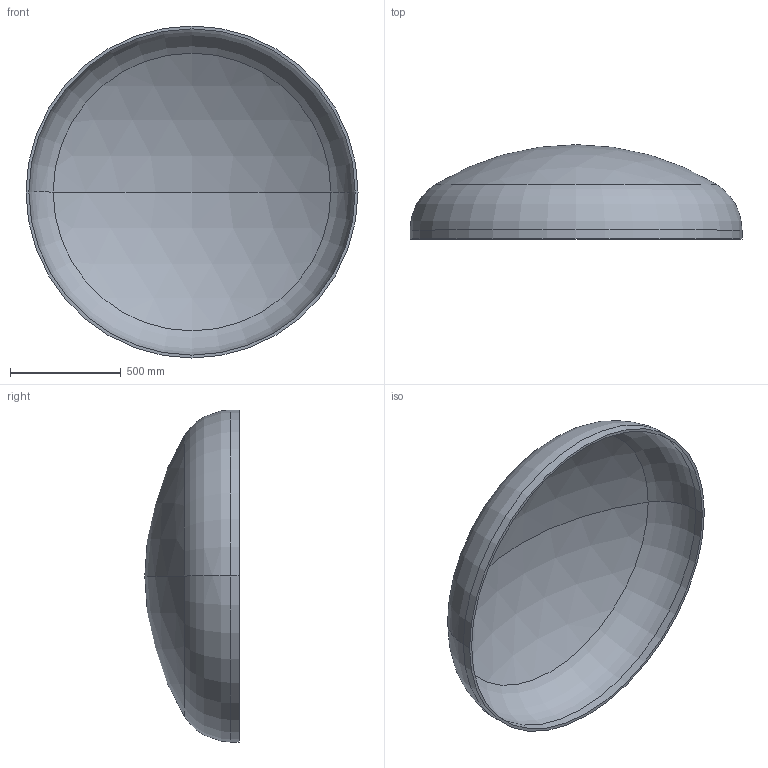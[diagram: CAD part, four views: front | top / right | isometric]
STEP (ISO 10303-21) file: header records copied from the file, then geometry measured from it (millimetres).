
FILE_DESCRIPTION (( 'STEP AP203' ), '1' );
FILE_NAME ('DIN 28013 Korbbogenform_-_Boden DIN 28013 - 1500 x 40 - I - s=13.step', '2016-07-01T10:36:18', ( '' ), ( '' ), 'SwSTEP 2.0', 'SolidWorks 2013', '' );
FILE_SCHEMA (( 'CONFIG_CONTROL_DESIGN' ));
Length unit declared in the file: millimetre
Products named in the file (1): DIN 28013 Korbbogenform_-_Boden DIN 28013 - 1500 x 40 - I - s=13
Bounding box: 1500 x 426.05 x 1500 mm (x, y, z)
Volume: 33857208.1 mm3; surface area: 5269883.4 mm2
Topology: 1 solids, 1 shells, 13 faces, 24 edges, 14 vertices
Faces by surface type: torus 4, cylinder 4, sphere 4, plane 1
Entity records: 407 total; most frequent: DIRECTION 72, CARTESIAN_POINT 52, ORIENTED_EDGE 48, AXIS2_PLACEMENT_3D 34, EDGE_CURVE 24, CIRCLE 20, EDGE_LOOP 14, VERTEX_POINT 14
